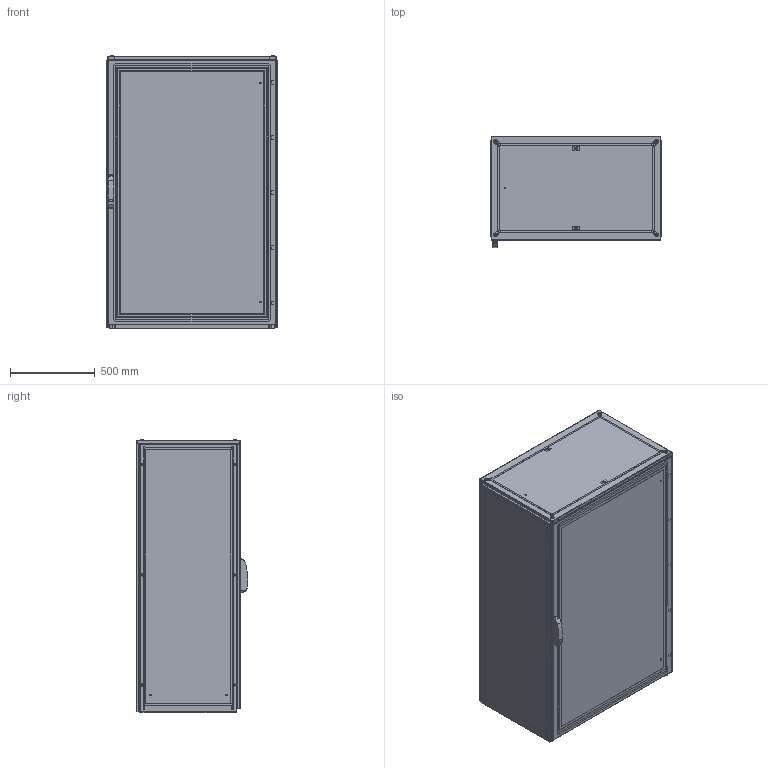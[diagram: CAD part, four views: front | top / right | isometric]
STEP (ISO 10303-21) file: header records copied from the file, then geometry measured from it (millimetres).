
FILE_DESCRIPTION(/* description */ ('STEP AP214'),/* implementation_level */ '2;1');
FILE_NAME(/* name */ 'ENUX101606PR-LOD350',/* time_stamp */ '2025-10-03T13:56:02+02:00',/* author */ ('License CC BY-ND 4.0'),/* organization */ ('CADENAS'),/* preprocessor_version */ 'ST-DEVELOPER v19.3',/* originating_system */ 'PARTsolutions',/* authorisation */ ' ');
FILE_SCHEMA (('AUTOMOTIVE_DESIGN {1 0 10303 214 3 1 1}'));
Length unit declared in the file: millimetre
Products named in the file (11): ENUX101606PR-LOD350; ENUX101606PR-LOD350_CON; ENUX101606PR-LOD350_floor1; ENUX101606PR-LOD350_floor2; Screw M12x30 architecture 350; ENUX101606PR-LOD350_side; ENUX101606PR-LOD350_top; ENUX101606PR-LOD350_back_door_r; ENUX101606PR-LOD350_back_door_l; ENUX101606PR-LOD350_door; ENUX101606PR-LOD350_handle
Assembly tree (22 placements, depth 2):
  ENUX101606PR-LOD350
    ENUX101606PR-LOD350_CON
    ENUX101606PR-LOD350_floor1  x4
    ENUX101606PR-LOD350_floor2  x6
    Screw M12x30 architecture 350  x4
    ENUX101606PR-LOD350_side  x2
    ENUX101606PR-LOD350_top
    ENUX101606PR-LOD350_back_door_r
    ENUX101606PR-LOD350_back_door_l
    ENUX101606PR-LOD350_door
    ENUX101606PR-LOD350_handle
Bounding box: 1012 x 657 x 1614.1 mm (x, y, z)
Volume: 24066430 mm3; surface area: 18564220.4 mm2
Topology: 22 solids, 22 shells, 2187 faces, 6063 edges, 3950 vertices
Faces by surface type: plane 1151, cylinder 851, cone 86, torus 82, sphere 17
Full cylindrical faces by diameter (mm): 4.5 x132, 6 x20, 6.8 x8, 7 x3, 9 x11, 12 x16, 13 x4, 14 x2, 17 x2, 18 x1, 21 x4, 28 x2
Entity records: 52021 total; most frequent: DIRECTION 9019, CARTESIAN_POINT 9005, ORIENTED_EDGE 8412, EDGE_CURVE 4206, AXIS2_PLACEMENT_3D 3227, VERTEX_POINT 2942, LINE 2565, VECTOR 2565
